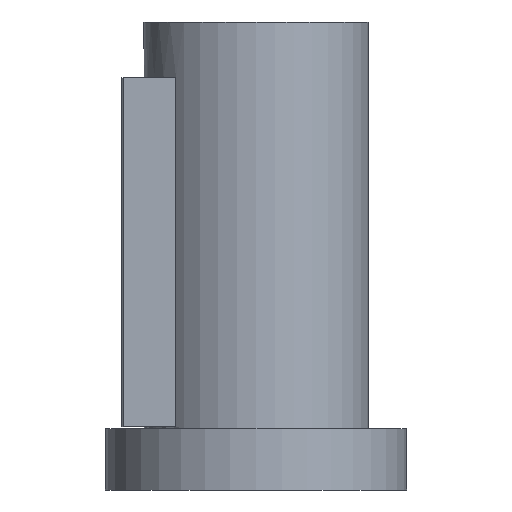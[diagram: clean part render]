
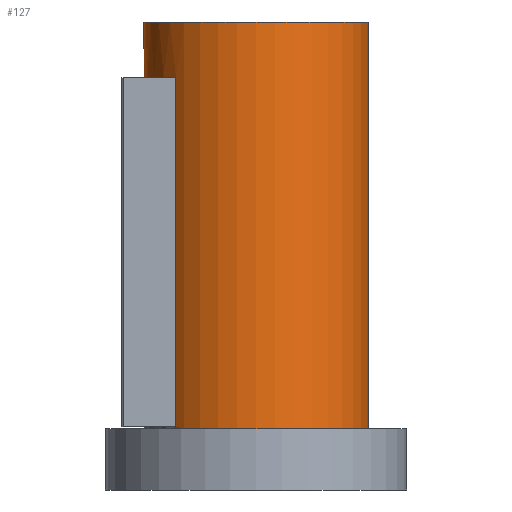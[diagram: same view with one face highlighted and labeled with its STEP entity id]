
A CAD part, front view. The second image highlights one B-rep face of the part: STEP entity #127.
In plain terms, the highlighted cylindrical face has radius 58.5 mm (diameter 117 mm), a full revolution.
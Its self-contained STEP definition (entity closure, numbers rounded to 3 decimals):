
#127=ADVANCED_FACE('',(#200,#201,#202),#155,.T.);
#155=CYLINDRICAL_SURFACE('',#508,58.5);
#168=LINE('',#698,#184);
#169=LINE('',#702,#185);
#184=VECTOR('',#568,1.);
#185=VECTOR('',#571,1.);
#200=FACE_BOUND('',#245,.T.);
#201=FACE_BOUND('',#246,.T.);
#202=FACE_BOUND('',#247,.T.);
#245=EDGE_LOOP('',(#305));
#246=EDGE_LOOP('',(#306));
#247=EDGE_LOOP('',(#307,#308,#309,#310));
#305=ORIENTED_EDGE('',*,*,#431,.F.);
#306=ORIENTED_EDGE('',*,*,#432,.T.);
#307=ORIENTED_EDGE('',*,*,#433,.F.);
#308=ORIENTED_EDGE('',*,*,#434,.F.);
#309=ORIENTED_EDGE('',*,*,#435,.T.);
#310=ORIENTED_EDGE('',*,*,#436,.F.);
#393=VERTEX_POINT('',#692);
#394=VERTEX_POINT('',#694);
#395=VERTEX_POINT('',#696);
#396=VERTEX_POINT('',#697);
#397=VERTEX_POINT('',#699);
#398=VERTEX_POINT('',#701);
#431=EDGE_CURVE('',#393,#393,#475,.T.);
#432=EDGE_CURVE('',#394,#394,#476,.T.);
#433=EDGE_CURVE('',#395,#396,#477,.T.);
#434=EDGE_CURVE('',#397,#395,#168,.T.);
#435=EDGE_CURVE('',#397,#398,#478,.T.);
#436=EDGE_CURVE('',#396,#398,#169,.T.);
#475=CIRCLE('',#504,58.5);
#476=CIRCLE('',#505,58.5);
#477=CIRCLE('',#506,58.5);
#478=CIRCLE('',#507,58.5);
#504=AXIS2_PLACEMENT_3D('',#691,#562,#563);
#505=AXIS2_PLACEMENT_3D('',#693,#564,#565);
#506=AXIS2_PLACEMENT_3D('',#695,#566,#567);
#507=AXIS2_PLACEMENT_3D('',#700,#569,#570);
#508=AXIS2_PLACEMENT_3D('',#703,#572,#573);
#562=DIRECTION('',(0.,0.,1.));
#563=DIRECTION('',(1.,0.,0.));
#564=DIRECTION('',(0.,0.,1.));
#565=DIRECTION('',(1.,0.,0.));
#566=DIRECTION('',(0.,0.,-1.));
#567=DIRECTION('',(-1.,0.,0.));
#568=DIRECTION('',(0.,0.,1.));
#569=DIRECTION('',(0.,0.,-1.));
#570=DIRECTION('',(-1.,0.,0.));
#571=DIRECTION('',(0.,0.,-1.));
#572=DIRECTION('',(0.,0.,-1.));
#573=DIRECTION('',(-1.,0.,0.));
#691=CARTESIAN_POINT('',(0.,0.,244.));
#692=CARTESIAN_POINT('',(58.5,0.,244.));
#693=CARTESIAN_POINT('',(0.,0.,32.));
#694=CARTESIAN_POINT('',(58.5,0.,32.));
#695=CARTESIAN_POINT('',(0.,0.,215.));
#696=CARTESIAN_POINT('',(-41.728,-41.,215.));
#697=CARTESIAN_POINT('',(-41.728,41.,215.));
#698=CARTESIAN_POINT('',(-41.728,-41.,244.));
#699=CARTESIAN_POINT('',(-41.728,-41.,33.));
#700=CARTESIAN_POINT('',(0.,0.,33.));
#701=CARTESIAN_POINT('',(-41.728,41.,33.));
#702=CARTESIAN_POINT('',(-41.728,41.,244.));
#703=CARTESIAN_POINT('',(0.,0.,244.));
